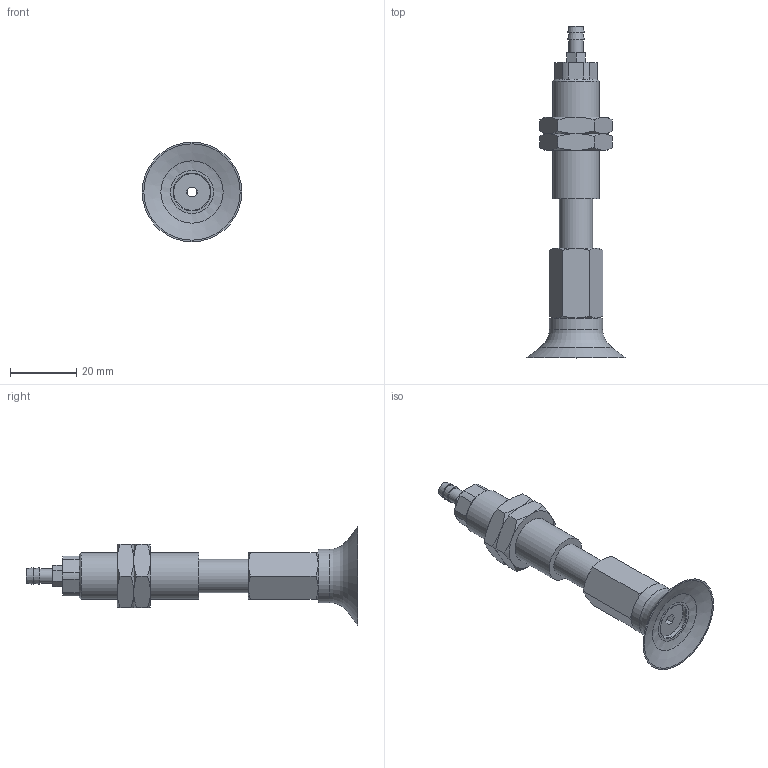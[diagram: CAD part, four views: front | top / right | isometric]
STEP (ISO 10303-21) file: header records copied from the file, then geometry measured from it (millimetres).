
FILE_DESCRIPTION(('STEP AP203'),'1');
FILE_NAME('-T.stp','2025-08-27T06:03:24',(' '),(' '),'Spatial InterOp 3D',' ',' ');
FILE_SCHEMA(('CONFIG_CONTROL_DESIGN'));
Length unit declared in the file: millimetre
Products named in the file (8): BNABPFTS-30-15-※-T; ADAPTER; NAPFTS-30-15-MBODY; TN-PF-30-M6-NAPF; Nut-30-15-s; NAPFTS-30-15-FBODY; BPFG-30-※; T
Assembly tree (8 placements, depth 2):
  BNABPFTS-30-15-※-T
    ADAPTER
    NAPFTS-30-15-MBODY
    TN-PF-30-M6-NAPF
    Nut-30-15-s  x2
    NAPFTS-30-15-FBODY
    BPFG-30-※
    T
Bounding box: 30 x 100 x 30 mm (x, y, z)
Volume: 14888.1 mm3; surface area: 11845.1 mm2
Topology: 8 solids, 8 shells, 147 faces, 307 edges, 186 vertices
Faces by surface type: plane 68, cone 49, cylinder 24, torus 5, bspline 1
Full cylindrical faces by diameter (mm): 3 x4, 4.134 x1, 4.3 x1, 4.917 x1, 5 x1, 6 x2, 10 x2, 11 x2, 12.917 x2, 14 x1, 16 x1
Entity records: 3763 total; most frequent: CARTESIAN_POINT 872, DIRECTION 532, ORIENTED_EDGE 442, AXIS2_PLACEMENT_3D 227, EDGE_CURVE 221, EDGE_LOOP 182, VERTEX_POINT 155, FACE_OUTER_BOUND 147
